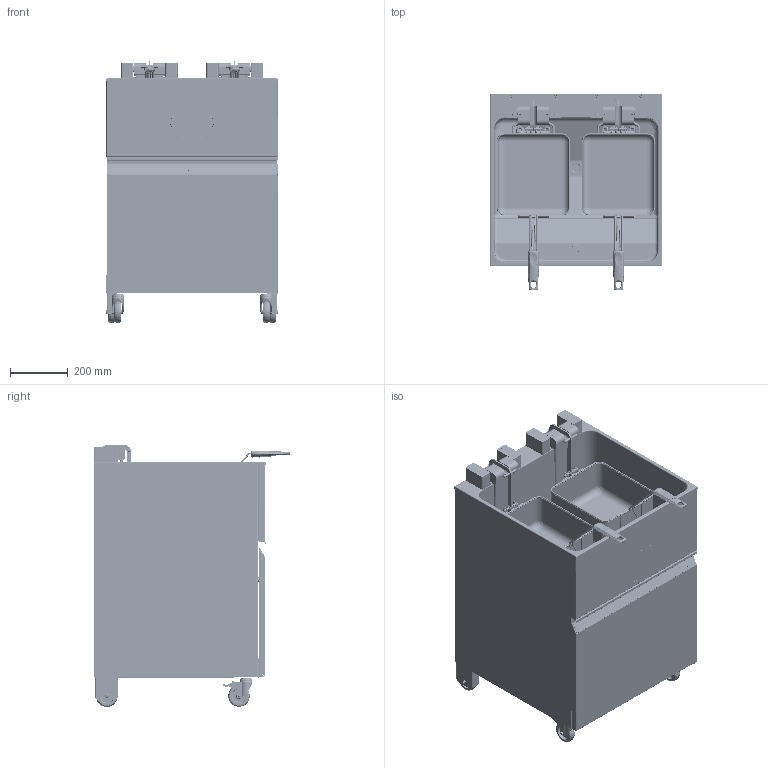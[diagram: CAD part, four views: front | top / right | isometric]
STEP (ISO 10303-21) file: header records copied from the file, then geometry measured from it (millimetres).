
FILE_DESCRIPTION(/* description */ (''),/* implementation_level */ '2;1');
FILE_NAME(/* name */ 'CORE SMART 600',/* time_stamp */ '2025-10-22T13:22:39+02:00',/* author */ (''),/* organization */ (''),/* preprocessor_version */ 'ST-DEVELOPER v19.2',/* originating_system */ 'Rhino 8.23',/* authorisation */ '');
FILE_SCHEMA (('CONFIG_CONTROL_DESIGN'));
Products named in the file (1): Document
Bounding box: 599.8 x 684.84 x 910.4 mm (x, y, z)
Volume: 8036087.1 mm3; surface area: 11621798.2 mm2
Topology: 176 solids, 182 shells, 8287 faces, 20976 edges, 13129 vertices
Faces by surface type: plane 3250, cylinder 3023, bspline 2014
Full cylindrical faces by diameter (mm): 27 x2
Entity records: 432092 total; most frequent: CARTESIAN_POINT 260534, ORIENTED_EDGE 41776, EDGE_CURVE 20914, DIRECTION 20729, AXIS2_PLACEMENT_3D 13501, B_SPLINE_CURVE_WITH_KNOTS 13226, VERTEX_POINT 13129, EDGE_LOOP 9101
